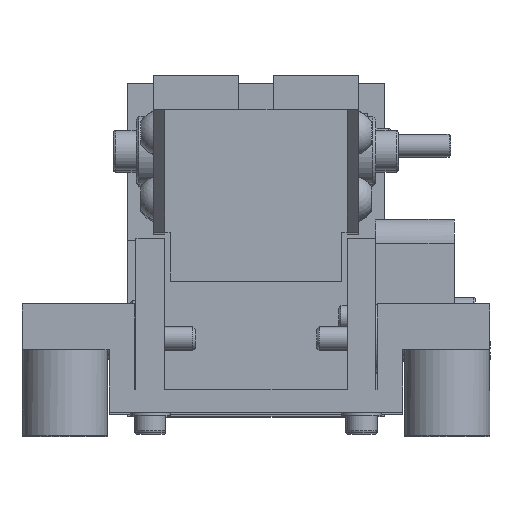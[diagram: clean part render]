
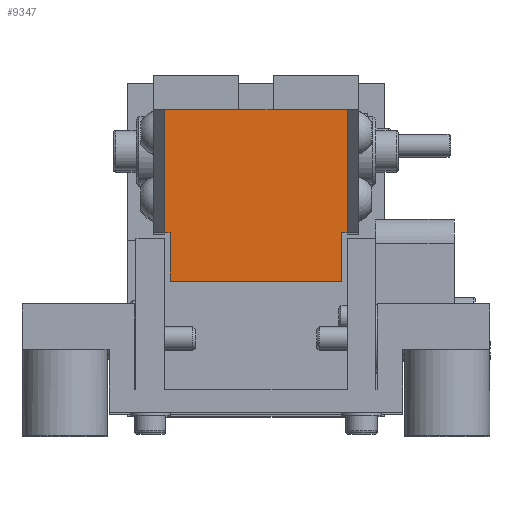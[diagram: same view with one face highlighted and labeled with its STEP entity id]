
A CAD part, top view. The second image highlights one B-rep face of the part: STEP entity #9347.
In plain terms, the highlighted planar face has unit normal (0, 0, 1).
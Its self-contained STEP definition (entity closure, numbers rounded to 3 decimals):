
#2851=ORIENTED_EDGE('',*,*,#4172,.F.);
#2852=ORIENTED_EDGE('',*,*,#4018,.T.);
#2853=ORIENTED_EDGE('',*,*,#4394,.T.);
#2854=ORIENTED_EDGE('',*,*,#4264,.T.);
#2855=ORIENTED_EDGE('',*,*,#4119,.T.);
#2856=ORIENTED_EDGE('',*,*,#4395,.T.);
#2857=ORIENTED_EDGE('',*,*,#4390,.T.);
#2858=ORIENTED_EDGE('',*,*,#4031,.T.);
#2859=ORIENTED_EDGE('',*,*,#4170,.T.);
#2860=ORIENTED_EDGE('',*,*,#4027,.T.);
#4018=EDGE_CURVE('',#5010,#5011,#5848,.T.);
#4027=EDGE_CURVE('',#5020,#5019,#5857,.T.);
#4031=EDGE_CURVE('',#5023,#5024,#5860,.T.);
#4119=EDGE_CURVE('',#5107,#5106,#5908,.T.);
#4170=EDGE_CURVE('',#5024,#5020,#5938,.T.);
#4172=EDGE_CURVE('',#5010,#5019,#5939,.T.);
#4264=EDGE_CURVE('',#5216,#5107,#5974,.T.);
#4390=EDGE_CURVE('',#5288,#5023,#6044,.T.);
#4394=EDGE_CURVE('',#5011,#5216,#6048,.T.);
#4395=EDGE_CURVE('',#5106,#5288,#6049,.T.);
#5010=VERTEX_POINT('',#15044);
#5011=VERTEX_POINT('',#15045);
#5019=VERTEX_POINT('',#15062);
#5020=VERTEX_POINT('',#15064);
#5023=VERTEX_POINT('',#15072);
#5024=VERTEX_POINT('',#15073);
#5106=VERTEX_POINT('',#15308);
#5107=VERTEX_POINT('',#15310);
#5216=VERTEX_POINT('',#15689);
#5288=VERTEX_POINT('',#15985);
#5848=LINE('',#15043,#6618);
#5857=LINE('',#15063,#6627);
#5860=LINE('',#15071,#6630);
#5908=LINE('',#15309,#6678);
#5938=LINE('',#15436,#6708);
#5939=LINE('',#15441,#6709);
#5974=LINE('',#15688,#6744);
#6044=LINE('',#15984,#6814);
#6048=LINE('',#15993,#6818);
#6049=LINE('',#15994,#6819);
#6618=VECTOR('',#12110,1000.);
#6627=VECTOR('',#12121,1000.);
#6630=VECTOR('',#12128,1000.);
#6678=VECTOR('',#12282,1000.);
#6708=VECTOR('',#12366,1000.);
#6709=VECTOR('',#12373,1000.);
#6744=VECTOR('',#12568,1000.);
#6814=VECTOR('',#12834,1000.);
#6818=VECTOR('',#12844,1000.);
#6819=VECTOR('',#12845,1000.);
#7518=EDGE_LOOP('',(#2851,#2852,#2853,#2854,#2855,#2856,#2857,#2858,#2859,
#2860));
#8333=FACE_BOUND('',#7518,.T.);
#8799=PLANE('',#10303);
#9347=ADVANCED_FACE('',(#8333),#8799,.T.);
#10303=AXIS2_PLACEMENT_3D('',#15992,#12842,#12843);
#12110=DIRECTION('',(1.,0.,0.));
#12121=DIRECTION('',(-1.,0.,0.));
#12128=DIRECTION('',(-1.,0.,0.));
#12282=DIRECTION('',(0.,1.,0.));
#12366=DIRECTION('',(-1.,0.,0.));
#12373=DIRECTION('',(0.,1.,0.));
#12568=DIRECTION('',(1.,0.,0.));
#12834=DIRECTION('',(0.,1.,0.));
#12842=DIRECTION('',(0.,0.,1.));
#12843=DIRECTION('',(1.,0.,0.));
#12844=DIRECTION('',(0.,-1.,0.));
#12845=DIRECTION('',(1.,0.,0.));
#15043=CARTESIAN_POINT('',(16.,-27.5,182.));
#15044=CARTESIAN_POINT('',(-16.,-27.5,182.));
#15045=CARTESIAN_POINT('',(-15.025,-27.5,182.));
#15062=CARTESIAN_POINT('',(-16.,-6.,182.));
#15063=CARTESIAN_POINT('',(16.,-6.,182.));
#15064=CARTESIAN_POINT('',(-3.,-6.,182.));
#15071=CARTESIAN_POINT('',(16.,-6.,182.));
#15072=CARTESIAN_POINT('',(16.,-6.,182.));
#15073=CARTESIAN_POINT('',(3.,-6.,182.));
#15308=CARTESIAN_POINT('',(14.975,-27.5,182.));
#15309=CARTESIAN_POINT('',(14.975,-27.5,182.));
#15310=CARTESIAN_POINT('',(14.975,-36.,182.));
#15436=CARTESIAN_POINT('',(-16.05,-6.,182.));
#15441=CARTESIAN_POINT('',(-16.,-6.,182.));
#15688=CARTESIAN_POINT('',(14.975,-36.,182.));
#15689=CARTESIAN_POINT('',(-15.025,-36.,182.));
#15984=CARTESIAN_POINT('',(16.,-6.,182.));
#15985=CARTESIAN_POINT('',(16.,-27.5,182.));
#15992=CARTESIAN_POINT('',(16.,-36.,182.));
#15993=CARTESIAN_POINT('',(-15.025,-36.,182.));
#15994=CARTESIAN_POINT('',(14.975,-27.5,182.));
